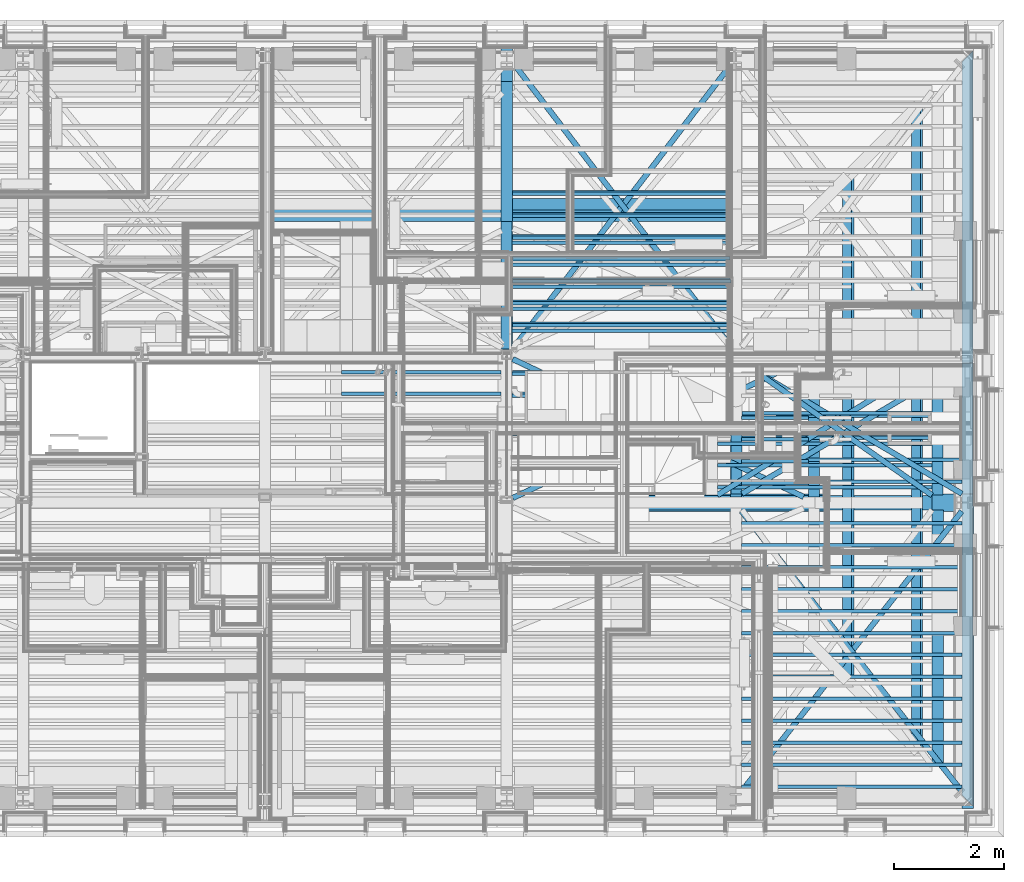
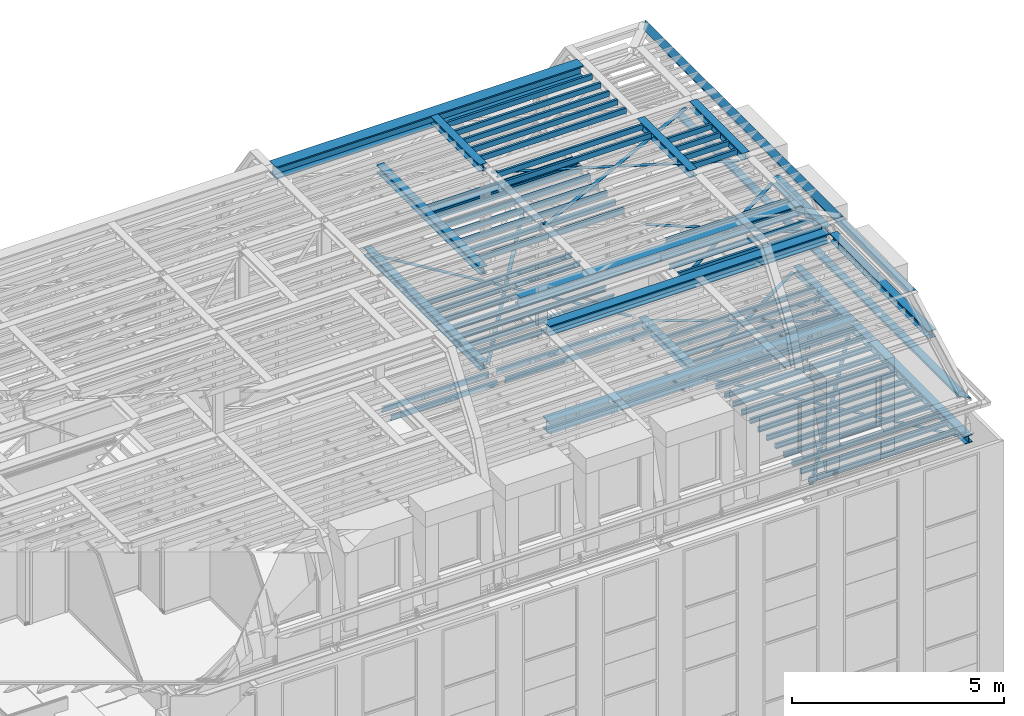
# One storey, part 10 of 183: 78 beams.
"""IFC2X3 building model written with IfcOpenShell, lengths in metres."""

from ifc_helpers import new_model, entity, si_unit, converted_unit, derived_unit, money_unit, direction, frame, frame_2d, origin_with_axes, place, context, subcontext, project, spatial, polyline, rectangle, outline, extrude, clip, halfspace, material, type_object, element, save


model = new_model("IFC2X3")

# Units and contexts
model_context = context("Model", 3, precision=1e-05, world=origin_with_axes(), true_north=direction((0.0, 1.0)))
body_context = subcontext(model_context, "Body", "Model", "MODEL_VIEW", scale=1.0)
ifc_project = project(units=[si_unit("LENGTHUNIT", "METRE"), si_unit("AREAUNIT", "SQUARE_METRE"), si_unit("VOLUMEUNIT", "CUBIC_METRE"), si_unit("ABSORBEDDOSEUNIT", "GRAY"), si_unit("AMOUNTOFSUBSTANCEUNIT", "MOLE"), si_unit("DOSEEQUIVALENTUNIT", "SIEVERT"), si_unit("ELECTRICCAPACITANCEUNIT", "FARAD"), si_unit("ELECTRICCHARGEUNIT", "COULOMB"), si_unit("ELECTRICCONDUCTANCEUNIT", "SIEMENS"), si_unit("ELECTRICCURRENTUNIT", "AMPERE"), si_unit("ELECTRICRESISTANCEUNIT", "OHM"), si_unit("ELECTRICVOLTAGEUNIT", "VOLT"), si_unit("ENERGYUNIT", "JOULE"), si_unit("FORCEUNIT", "NEWTON"), si_unit("FREQUENCYUNIT", "HERTZ"), si_unit("ILLUMINANCEUNIT", "LUX"), si_unit("INDUCTANCEUNIT", "HENRY"), si_unit("LUMINOUSFLUXUNIT", "LUMEN"), si_unit("LUMINOUSINTENSITYUNIT", "CANDELA"), si_unit("MAGNETICFLUXDENSITYUNIT", "TESLA"), si_unit("MAGNETICFLUXUNIT", "WEBER"), si_unit("MASSUNIT", "GRAM"), converted_unit("PLANEANGLEUNIT", "degree", entity("IfcReal", 0.0174532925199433), si_unit("PLANEANGLEUNIT", "RADIAN"), dimensions=[0, 0, 0, 0, 0, 0, 0]), si_unit("POWERUNIT", "WATT"), si_unit("PRESSUREUNIT", "PASCAL"), si_unit("RADIOACTIVITYUNIT", "BECQUEREL"), si_unit("SOLIDANGLEUNIT", "STERADIAN"), si_unit("THERMODYNAMICTEMPERATUREUNIT", "KELVIN"), si_unit("TIMEUNIT", "SECOND"), derived_unit("ACCELERATIONUNIT", [(si_unit("LENGTHUNIT", "METRE"), 1), (si_unit("TIMEUNIT", "SECOND"), -2)]), derived_unit("ANGULARVELOCITYUNIT", [(converted_unit("PLANEANGLEUNIT", "degree", entity("IfcReal", 0.0174532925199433), si_unit("PLANEANGLEUNIT", "RADIAN"), dimensions=[0, 0, 0, 0, 0, 0, 0]), 1), (si_unit("TIMEUNIT", "SECOND"), -1)]), derived_unit("CURVATUREUNIT", [(converted_unit("PLANEANGLEUNIT", "degree", entity("IfcReal", 0.0174532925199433), si_unit("PLANEANGLEUNIT", "RADIAN"), dimensions=[0, 0, 0, 0, 0, 0, 0]), 1), (si_unit("LENGTHUNIT", "METRE"), -1)]), derived_unit("DYNAMICVISCOSITYUNIT", [(si_unit("PRESSUREUNIT", "PASCAL"), 1), (si_unit("TIMEUNIT", "SECOND"), 1)]), derived_unit("HEATFLUXDENSITYUNIT", [(si_unit("POWERUNIT", "WATT"), 1), (si_unit("LENGTHUNIT", "METRE"), -2)]), derived_unit("HEATINGVALUEUNIT", [(si_unit("ENERGYUNIT", "JOULE"), 1), (si_unit("MASSUNIT", "GRAM"), -1)]), derived_unit("INTEGERCOUNTRATEUNIT", [(si_unit("TIMEUNIT", "SECOND"), -1)]), derived_unit("IONCONCENTRATIONUNIT", [(si_unit("MASSUNIT", "GRAM"), 1), (si_unit("VOLUMEUNIT", "CUBIC_METRE"), -1)]), derived_unit("ISOTHERMALMOISTURECAPACITYUNIT", [(si_unit("VOLUMEUNIT", "CUBIC_METRE"), 1), (si_unit("MASSUNIT", "GRAM"), -1)]), derived_unit("KINEMATICVISCOSITYUNIT", [(si_unit("AREAUNIT", "SQUARE_METRE"), 1), (si_unit("TIMEUNIT", "SECOND"), -1)]), derived_unit("LINEARFORCEUNIT", [(si_unit("FORCEUNIT", "NEWTON"), 1), (si_unit("LENGTHUNIT", "METRE"), -1)]), derived_unit("LINEARMOMENTUNIT", [(si_unit("FORCEUNIT", "NEWTON"), 1), (si_unit("LENGTHUNIT", "METRE"), -1)]), derived_unit("LINEARSTIFFNESSUNIT", [(si_unit("FORCEUNIT", "NEWTON"), 1), (si_unit("LENGTHUNIT", "METRE"), -1)]), derived_unit("LINEARVELOCITYUNIT", [(si_unit("LENGTHUNIT", "METRE"), 1), (si_unit("TIMEUNIT", "SECOND"), -1)]), derived_unit("LUMINOUSINTENSITYDISTRIBUTIONUNIT", [(si_unit("LUMINOUSINTENSITYUNIT", "CANDELA"), 1), (si_unit("LUMINOUSFLUXUNIT", "LUMEN"), -1)]), derived_unit("MASSDENSITYUNIT", [(si_unit("MASSUNIT", "GRAM"), 1), (si_unit("VOLUMEUNIT", "CUBIC_METRE"), -1)]), derived_unit("MASSFLOWRATEUNIT", [(si_unit("MASSUNIT", "GRAM"), 1), (si_unit("TIMEUNIT", "SECOND"), -1)]), derived_unit("MASSPERLENGTHUNIT", [(si_unit("MASSUNIT", "GRAM"), 1), (si_unit("LENGTHUNIT", "METRE"), -1)]), derived_unit("MODULUSOFELASTICITYUNIT", [(si_unit("FORCEUNIT", "NEWTON"), 1), (si_unit("AREAUNIT", "SQUARE_METRE"), -1)]), derived_unit("MODULUSOFLINEARSUBGRADEREACTIONUNIT", [(si_unit("FORCEUNIT", "NEWTON"), 1), (si_unit("LENGTHUNIT", "METRE"), -2)]), derived_unit("MODULUSOFROTATIONALSUBGRADEREACTIONUNIT", [(si_unit("FORCEUNIT", "NEWTON"), 1), (si_unit("LENGTHUNIT", "METRE"), 1)]), derived_unit("MODULUSOFSUBGRADEREACTIONUNIT", [(si_unit("FORCEUNIT", "NEWTON"), 1), (si_unit("VOLUMEUNIT", "CUBIC_METRE"), -1)]), derived_unit("MOISTUREDIFFUSIVITYUNIT", [(si_unit("VOLUMEUNIT", "CUBIC_METRE"), 1), (si_unit("TIMEUNIT", "SECOND"), -1)]), derived_unit("MOLECULARWEIGHTUNIT", [(si_unit("MASSUNIT", "GRAM"), 1), (si_unit("AMOUNTOFSUBSTANCEUNIT", "MOLE"), -1)]), derived_unit("PLANARFORCEUNIT", [(si_unit("FORCEUNIT", "NEWTON"), 1), (si_unit("LENGTHUNIT", "METRE"), -2)]), derived_unit("ROTATIONALFREQUENCYUNIT", [(si_unit("TIMEUNIT", "SECOND"), -1)]), derived_unit("ROTATIONALMASSUNIT", [(si_unit("MASSUNIT", "GRAM"), 1), (si_unit("LENGTHUNIT", "METRE"), 2)]), derived_unit("ROTATIONALSTIFFNESSUNIT", [(si_unit("FORCEUNIT", "NEWTON"), 1), (si_unit("LENGTHUNIT", "METRE"), 1), (converted_unit("PLANEANGLEUNIT", "degree", entity("IfcReal", 0.0174532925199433), si_unit("PLANEANGLEUNIT", "RADIAN"), dimensions=[0, 0, 0, 0, 0, 0, 0]), -1)]), derived_unit("SECTIONAREAINTEGRALUNIT", [(si_unit("LENGTHUNIT", "METRE"), 5)]), derived_unit("SECTIONMODULUSUNIT", [(si_unit("LENGTHUNIT", "METRE"), 3)]), derived_unit("SHEARMODULUSUNIT", [(si_unit("FORCEUNIT", "NEWTON"), 1), (si_unit("AREAUNIT", "SQUARE_METRE"), -1)]), derived_unit("SOUNDPOWERUNIT", [(si_unit("ENERGYUNIT", "JOULE"), 1), (si_unit("TIMEUNIT", "SECOND"), -1)]), derived_unit("SPECIFICHEATCAPACITYUNIT", [(si_unit("FORCEUNIT", "NEWTON"), 1), (si_unit("MASSUNIT", "GRAM"), -1), (si_unit("THERMODYNAMICTEMPERATUREUNIT", "KELVIN"), -1)]), derived_unit("TEMPERATUREGRADIENTUNIT", [(si_unit("THERMODYNAMICTEMPERATUREUNIT", "KELVIN"), 1), (si_unit("LENGTHUNIT", "METRE"), -1)]), derived_unit("THERMALADMITTANCEUNIT", [(si_unit("POWERUNIT", "WATT"), 1), (si_unit("AREAUNIT", "SQUARE_METRE"), -1), (si_unit("THERMODYNAMICTEMPERATUREUNIT", "KELVIN"), -1)]), derived_unit("THERMALCONDUCTANCEUNIT", [(si_unit("POWERUNIT", "WATT"), 1), (si_unit("LENGTHUNIT", "METRE"), -1), (si_unit("THERMODYNAMICTEMPERATUREUNIT", "KELVIN"), -1)]), derived_unit("THERMALEXPANSIONCOEFFICIENTUNIT", [(si_unit("THERMODYNAMICTEMPERATUREUNIT", "KELVIN"), -1)]), derived_unit("THERMALRESISTANCEUNIT", [(si_unit("AREAUNIT", "SQUARE_METRE"), 1), (si_unit("POWERUNIT", "WATT"), -1)]), derived_unit("THERMALTRANSMITTANCEUNIT", [(si_unit("POWERUNIT", "WATT"), 1), (si_unit("AREAUNIT", "SQUARE_METRE"), -1), (si_unit("THERMODYNAMICTEMPERATUREUNIT", "KELVIN"), -1)]), derived_unit("TORQUEUNIT", [(si_unit("FORCEUNIT", "NEWTON"), 1), (si_unit("LENGTHUNIT", "METRE"), 1)]), derived_unit("VAPORPERMEABILITYUNIT", [(si_unit("MASSUNIT", "GRAM"), 1), (si_unit("TIMEUNIT", "SECOND"), -1)]), derived_unit("VOLUMETRICFLOWRATEUNIT", [(si_unit("VOLUMEUNIT", "CUBIC_METRE"), 1), (si_unit("TIMEUNIT", "SECOND"), -1)]), derived_unit("WARPINGCONSTANTUNIT", [(si_unit("LENGTHUNIT", "METRE"), 6)]), derived_unit("WARPINGMOMENTUNIT", [(si_unit("FORCEUNIT", "NEWTON"), 1), (si_unit("LENGTHUNIT", "METRE"), 2)]), money_unit("GBP")], contexts=[model_context])

# Site, building, storey
site_placement = place(None, origin_with_axes())
site = spatial("IfcSite", under=ifc_project, at=site_placement, Name="Site", CompositionType="ELEMENT")
building_placement = place(site_placement, origin_with_axes())
building = spatial("IfcBuilding", under=site, at=building_placement, Name="Building01", CompositionType="ELEMENT")
storey_placement = place(building_placement, frame((0.0, 0.0, 5.15), z_axis=(0.0, 0.0, 1.0), x_axis=(1.0, 0.0, 0.0)))
storey = spatial("IfcBuildingStorey", under=building, at=storey_placement, Name="1F", CompositionType="ELEMENT", Elevation=5.15)

# Beams
ifc_material = material(Name="A_BSUK_Beams_Steel")
beam_type_1 = type_object("IfcBeamType", Name="A-Beams-Steel", PredefinedType="BEAM")
beam_1_placement = place(storey_placement, frame((18.01, 5.9408, 9.3775), z_axis=(1.0, 0.0, 0.0), x_axis=(0.0, 1.0, 0.0)))
element("IfcBeam", 1, at=beam_1_placement, inside=storey, type_object=beam_type_1, material=ifc_material, Name="4F", ObjectType="A-Beams-Steel", context=body_context, shape_type="SweptSolid", body=[
    extrude(outline(polyline([(0.3184, 0.0), (0.3184, 0.0377), (0.1707, 0.0377), (0.1707, 0.3148), (0.3184, 0.3148), (0.3184, 0.3525), (0.0, 0.3525), (0.0, 0.3148), (0.1477, 0.3148), (0.1477, 0.0377), (0.0, 0.0377), (0.0, 0.0), (0.3184, 0.0)])), origin_with_axes(), (0.0, 0.0, 1.0), 8.41),
])
beam_2_placement = place(storey_placement, frame((17.80545, 14.38, 9.5078), z_axis=(0.0, -1.0, 0.0), x_axis=(1.0, 0.0, 0.0)))
element("IfcBeam", 2, at=beam_2_placement, inside=storey, type_object=beam_type_1, material=ifc_material, Name="4F", ObjectType="A-Beams-Steel", context=body_context, shape_type="SweptSolid", body=[
    extrude(outline(polyline([(0.2091, 0.0), (0.2091, 0.0205), (0.1109, 0.0205), (0.1109, 0.2017), (0.2091, 0.2017), (0.2091, 0.2222), (0.0, 0.2222), (0.0, 0.2017), (0.0982, 0.2017), (0.0982, 0.0205), (0.0, 0.0205), (0.0, 0.0), (0.2091, 0.0)])), origin_with_axes(), (0.0, 0.0, 1.0), 5.505),
])
beam_3_placement = place(storey_placement, frame((26.2109, 5.9408, 9.5078), z_axis=(0.0, -1.0, 0.0), x_axis=(1.0, 0.0, 0.0)))
element("IfcBeam", 3, at=beam_3_placement, inside=storey, type_object=beam_type_1, material=ifc_material, Name="4F", ObjectType="A-Beams-Steel", context=body_context, shape_type="SweptSolid", body=[
    extrude(outline(polyline([(0.2091, 0.0), (0.2091, 0.0205), (0.1109, 0.0205), (0.1109, 0.2017), (0.2091, 0.2017), (0.2091, 0.2222), (0.0, 0.2222), (0.0, 0.2017), (0.0982, 0.2017), (0.0982, 0.0205), (0.0, 0.0205), (0.0, 0.0), (0.2091, 0.0)])), origin_with_axes(), (0.0, 0.0, 1.0), 5.4208),
])
for number, where, z_axis, x_axis, name in (
    (4, (21.9982, 8.6408, 9.5268), (0.0, -1.0, 0.0), (1.0, 0.0, 0.0), "4F"),
    (5, (26.21365, 8.6408, 9.5268), (0.0, -1.0, 0.0), (1.0, 0.0, 0.0), "4F"),
):
    element("IfcBeam", number, at=place(storey_placement, frame(where, z_axis=z_axis, x_axis=x_axis)), inside=storey, type_object=beam_type_1, material=ifc_material, Name=name, ObjectType="A-Beams-Steel", context=body_context, shape_type="SweptSolid", body=[
        extrude(outline(polyline([(0.2036, 0.0), (0.2036, 0.011), (0.1054, 0.011), (0.1054, 0.1922), (0.2036, 0.1922), (0.2036, 0.2032), (0.0, 0.2032), (0.0, 0.1922), (0.0982, 0.1922), (0.0982, 0.011), (0.0, 0.011), (0.0, 0.0), (0.2036, 0.0)])), origin_with_axes(), (0.0, 0.0, 1.0), 2.3816),
    ])
beam_4_placement = place(storey_placement, frame((17.8068, 13.780445, 12.2642), z_axis=(0.0, -1.0, 0.0), x_axis=(1.0, 0.0, 0.0)))
element("IfcBeam", 6, at=beam_4_placement, inside=storey, type_object=beam_type_1, material=ifc_material, Name="5F", ObjectType="A-Beams-Steel", context=body_context, shape_type="SweptSolid", body=[
    extrude(outline(polyline([(0.2064, 0.0), (0.2064, 0.0173), (0.1082, 0.0173), (0.1082, 0.1985), (0.2064, 0.1985), (0.2064, 0.2158), (0.0, 0.2158), (0.0, 0.1985), (0.0982, 0.1985), (0.0982, 0.0173), (0.0, 0.0173), (0.0, 0.0), (0.2064, 0.0)])), origin_with_axes(), (0.0, 0.0, 1.0), 4.905445),
])
beam_5_placement = place(storey_placement, frame((25.6668, 5.967373, 12.2642), z_axis=(0.0, -1.0, 0.0), x_axis=(1.0, 0.0, 0.0)))
element("IfcBeam", 7, at=beam_5_placement, inside=storey, type_object=beam_type_1, material=ifc_material, Name="5F", ObjectType="A-Beams-Steel", context=body_context, shape_type="SweptSolid", body=[
    extrude(outline(polyline([(0.2064, 0.0), (0.2064, 0.0173), (0.1082, 0.0173), (0.1082, 0.1985), (0.2064, 0.1985), (0.2064, 0.2158), (0.0, 0.2158), (0.0, 0.1985), (0.0982, 0.1985), (0.0982, 0.0173), (0.0, 0.0173), (0.0, 0.0), (0.2064, 0.0)])), origin_with_axes(), (0.0, 0.0, 1.0), 4.665573),
])
beam_6_placement = place(storey_placement, frame((25.668093, 8.667427, 12.2768), z_axis=(0.0, -1.0, 0.0), x_axis=(1.0, 0.0, 0.0)))
element("IfcBeam", 8, at=beam_6_placement, inside=storey, type_object=beam_type_1, material=ifc_material, Name="5F", ObjectType="A-Beams-Steel", context=body_context, shape_type="SweptSolid", body=[
    extrude(outline(polyline([(0.2036, 0.0), (0.2036, 0.011), (0.1054, 0.011), (0.1054, 0.1922), (0.2036, 0.1922), (0.2036, 0.2032), (0.0, 0.2032), (0.0, 0.1922), (0.0982, 0.1922), (0.0982, 0.011), (0.0, 0.011), (0.0, 0.0), (0.2036, 0.0)])), origin_with_axes(), (0.0, 0.0, 1.0), 2.434484),
])
beam_7_placement = place(storey_placement, frame((18.0132, 11.4382, 12.2768), z_axis=(1.0, 0.0, 0.0), x_axis=(0.0, 1.0, 0.0)))
element("IfcBeam", 9, at=beam_7_placement, inside=storey, type_object=beam_type_1, material=ifc_material, Name="5F", ObjectType="A-Beams-Steel", context=body_context, shape_type="SweptSolid", body=[
    extrude(outline(polyline([(0.2036, 0.0), (0.2036, 0.011), (0.1054, 0.011), (0.1054, 0.1922), (0.2036, 0.1922), (0.2036, 0.2032), (0.0, 0.2032), (0.0, 0.1922), (0.0982, 0.1922), (0.0982, 0.011), (0.0, 0.011), (0.0, 0.0), (0.2036, 0.0)])), origin_with_axes(), (0.0, 0.0, 1.0), 3.9836),
])
beam_8_placement = place(storey_placement, frame((18.01, 5.967427, 12.1909), z_axis=(1.0, 0.0, 0.0), x_axis=(0.0, 1.0, 0.0)))
element("IfcBeam", 10, at=beam_8_placement, inside=storey, type_object=beam_type_1, material=ifc_material, Name="5F", ObjectType="A-Beams-Steel", context=body_context, shape_type="SweptSolid", body=[
    extrude(outline(polyline([(0.2652, 0.0), (0.2652, 0.0317), (0.1422, 0.0317), (0.1422, 0.2574), (0.2652, 0.2574), (0.2652, 0.2891), (0.0, 0.2891), (0.0, 0.2574), (0.123, 0.2574), (0.123, 0.0317), (0.0, 0.0317), (0.0, 0.0), (0.2652, 0.0)])), origin_with_axes(), (0.0, 0.0, 1.0), 7.6568),
])
beam_9_placement = place(storey_placement, frame((18.0118, 7.3174, 12.1909), z_axis=(1.0, 0.0, 0.0), x_axis=(0.0, 1.0, 0.0)))
element("IfcBeam", 11, at=beam_9_placement, inside=storey, type_object=beam_type_1, material=ifc_material, Name="5F", ObjectType="A-Beams-Steel", context=body_context, shape_type="SweptSolid", body=[
    extrude(outline(polyline([(0.2652, 0.0), (0.2652, 0.0317), (0.1422, 0.0317), (0.1422, 0.2574), (0.2652, 0.2574), (0.2652, 0.2891), (0.0, 0.2891), (0.0, 0.2574), (0.123, 0.2574), (0.123, 0.0317), (0.0, 0.0317), (0.0, 0.0), (0.2652, 0.0)])), origin_with_axes(), (0.0, 0.0, 1.0), 7.643593),
])
beam_10_placement = place(storey_placement, frame((17.8082, 11.2208, 15.2268), z_axis=(0.0, -1.0, 0.0), x_axis=(1.0, 0.0, 0.0)))
element("IfcBeam", 12, at=beam_10_placement, inside=storey, type_object=beam_type_1, material=ifc_material, Name="RP", ObjectType="A-Beams-Steel", context=body_context, shape_type="SweptSolid", body=[
    extrude(outline(polyline([(0.2036, 0.0), (0.2036, 0.011), (0.1054, 0.011), (0.1054, 0.1922), (0.2036, 0.1922), (0.2036, 0.2032), (0.0, 0.2032), (0.0, 0.1922), (0.0982, 0.1922), (0.0982, 0.011), (0.0, 0.011), (0.0, 0.0), (0.2036, 0.0)])), origin_with_axes(), (0.0, 0.0, 1.0), 2.3176),
])
for number, where, z_axis, x_axis, name in (
    (13, (21.988166, 8.6968, 15.2268), (0.0, -1.0, 0.0), (1.0, 0.0, 0.0), "RP"),
    (14, (23.415402, 8.6968, 15.2268), (0.0, -1.0, 0.0), (1.0, 0.0, 0.0), "RP"),
):
    element("IfcBeam", number, at=place(storey_placement, frame(where, z_axis=z_axis, x_axis=x_axis)), inside=storey, type_object=beam_type_1, material=ifc_material, Name=name, ObjectType="A-Beams-Steel", context=body_context, shape_type="SweptSolid", body=[
        extrude(outline(polyline([(0.2036, 0.0), (0.2036, 0.011), (0.1054, 0.011), (0.1054, 0.1922), (0.2036, 0.1922), (0.2036, 0.2032), (0.0, 0.2032), (0.0, 0.1922), (0.0982, 0.1922), (0.0982, 0.011), (0.0, 0.011), (0.0, 0.0), (0.2036, 0.0)])), origin_with_axes(), (0.0, 0.0, 1.0), 2.4936),
    ])
beam_11_placement = place(storey_placement, frame((13.6018, 11.2208, 15.0775), z_axis=(1.0, 0.0, 0.0), x_axis=(0.0, 1.0, 0.0)))
element("IfcBeam", 15, at=beam_11_placement, inside=storey, type_object=beam_type_1, material=ifc_material, Name="RP", ObjectType="A-Beams-Steel", context=body_context, shape_type="SweptSolid", body=[
    extrude(outline(polyline([(0.3184, 0.0), (0.3184, 0.0377), (0.1707, 0.0377), (0.1707, 0.3148), (0.3184, 0.3148), (0.3184, 0.3525), (0.0, 0.3525), (0.0, 0.3148), (0.1477, 0.3148), (0.1477, 0.0377), (0.0, 0.0377), (0.0, 0.0), (0.3184, 0.0)])), origin_with_axes(), (0.0, 0.0, 1.0), 8.386366),
])
for number, where, z_axis, x_axis, name in (
    (16, (18.006352, 14.06251, 9.568), (0.60877765, -0.79334089, 0.0), (0.79334089, 0.60877765, 0.0), "4F"),
    (17, (21.945783, 14.099239, 9.558), (-0.60877765, -0.79334089, 0.0), (0.79334089, -0.60877765, 0.0), "4F"),
):
    element("IfcBeam", number, at=place(storey_placement, frame(where, z_axis=z_axis, x_axis=x_axis)), inside=storey, type_object=beam_type_1, material=ifc_material, Name=name, ObjectType="A-Beams-Steel", context=body_context, shape_type="SweptSolid", body=[
        extrude(rectangle(XDim=0.01, YDim=0.1, at=frame_2d((0.05, 0.005), x_axis=(0.0, 1.0))), origin_with_axes(), (0.0, 0.0, 1.0), 6.47105),
    ])
for number, where, z_axis, x_axis, name in (
    (18, (22.176277, 8.597805, 9.568), (0.85989576, -0.51046967, 0.0), (0.51046967, 0.85989576, 0.0), "4F"),
    (19, (26.188127, 8.683795, 9.558), (-0.85989576, -0.51046967, 0.0), (0.51046967, -0.85989576, 0.0), "4F"),
):
    element("IfcBeam", number, at=place(storey_placement, frame(where, z_axis=z_axis, x_axis=x_axis)), inside=storey, type_object=beam_type_1, material=ifc_material, Name=name, ObjectType="A-Beams-Steel", context=body_context, shape_type="SweptSolid", body=[
        extrude(rectangle(XDim=0.01, YDim=0.1, at=frame_2d((0.05, 0.005), x_axis=(0.0, 1.0))), origin_with_axes(), (0.0, 0.0, 1.0), 4.665507),
    ])
for number, where, z_axis, x_axis, name in (
    (20, (22.15524, 5.909901, 9.568), (0.61797987, -0.78619392, 0.0), (0.78619392, 0.61797987, 0.0), "4F"),
    (21, (26.17159, 5.971699, 9.558), (-0.61797987, -0.78619392, 0.0), (0.78619392, -0.61797987, 0.0), "4F"),
):
    element("IfcBeam", number, at=place(storey_placement, frame(where, z_axis=z_axis, x_axis=x_axis)), inside=storey, type_object=beam_type_1, material=ifc_material, Name=name, ObjectType="A-Beams-Steel", context=body_context, shape_type="SweptSolid", body=[
        extrude(rectangle(XDim=0.01, YDim=0.1, at=frame_2d((0.05, 0.005), x_axis=(0.0, 1.0))), origin_with_axes(), (0.0, 0.0, 1.0), 6.49916),
    ])
beam_12_placement = place(storey_placement, frame((25.640397, 8.709887, 12.308), z_axis=(-0.84920412, -0.52806474, 0.0), x_axis=(0.52806474, -0.84920412, 0.0)))
element("IfcBeam", 22, at=beam_12_placement, inside=storey, type_object=beam_type_1, material=ifc_material, Name="5F", ObjectType="A-Beams-Steel", context=body_context, shape_type="SweptSolid", body=[
    extrude(rectangle(XDim=0.01, YDim=0.1, at=frame_2d((0.05, 0.005), x_axis=(0.0, 1.0))), origin_with_axes(), (0.0, 0.0, 1.0), 4.610199),
])
beam_13_placement = place(storey_placement, frame((22.173053, 8.626517, 12.318), z_axis=(0.81819889, -0.57493527, 0.0), x_axis=(0.57493527, 0.81819889, 0.0)))
element("IfcBeam", 23, at=beam_13_placement, inside=storey, type_object=beam_type_1, material=ifc_material, Name="5F", ObjectType="A-Beams-Steel", context=body_context, shape_type="SweptSolid", body=[
    extrude(rectangle(XDim=0.01, YDim=0.1, at=frame_2d((0.05, 0.005), x_axis=(0.0, 1.0))), origin_with_axes(), (0.0, 0.0, 1.0), 4.234912),
])
beam_14_placement = place(storey_placement, frame((18.04239, 6.137266, 15.268), z_axis=(0.90362392, 0.42832676, 0.0), x_axis=(-0.42832676, 0.90362392, 0.0)))
element("IfcBeam", 24, at=beam_14_placement, inside=storey, type_object=beam_type_1, material=ifc_material, Name="RP", ObjectType="A-Beams-Steel", context=body_context, shape_type="SweptSolid", body=[
    extrude(rectangle(XDim=0.01, YDim=0.1, at=frame_2d((0.05, 0.005), x_axis=(0.0, 1.0))), origin_with_axes(), (0.0, 0.0, 1.0), 5.870173),
])
beam_15_placement = place(storey_placement, frame((17.999558, 8.67096, 15.258), z_axis=(0.90371693, -0.42813048, 0.0), x_axis=(0.42813048, 0.90371693, 0.0)))
element("IfcBeam", 25, at=beam_15_placement, inside=storey, type_object=beam_type_1, material=ifc_material, Name="RP", ObjectType="A-Beams-Steel", context=body_context, shape_type="SweptSolid", body=[
    extrude(rectangle(XDim=0.01, YDim=0.1, at=frame_2d((0.05, 0.005), x_axis=(0.0, 1.0))), origin_with_axes(), (0.0, 0.0, 1.0), 5.869578),
])
beam_16_placement = place(storey_placement, frame((25.290673, 13.422626, 13.514975), z_axis=(0.0, -1.0, 0.0), x_axis=(0.57351196, 0.0, -0.81919719)))
element("IfcBeam", 26, at=beam_16_placement, inside=storey, type_object=beam_type_1, material=ifc_material, Name="5F", ObjectType="A-Beams-Steel", context=body_context, shape_type="Clipping", body=[
    clip(clip(extrude(outline(polyline([(0.075, 0.0), (0.075, 0.012), (0.006, 0.012), (0.006, 0.188), (0.075, 0.188), (0.075, 0.2), (0.0, 0.2), (0.0, 0.0), (0.075, 0.0)])), origin_with_axes(), (0.0, 0.0, 1.0), 11.945253), halfspace(frame((-3.366056, -4.808032, 5.8692), z_axis=(0.4055342, 0.57925988, -0.70710678), x_axis=(-0.86746356, 0.0, -0.49750073)), True)), halfspace(frame((0.059316, 0.084727, 0.103426), z_axis=(0.4055342, 0.57925988, 0.70710678), x_axis=(0.86746356, 0.0, -0.49750073)), True)),
])
beam_17_placement = place(storey_placement, frame((24.034766, 12.166718, 15.308898), z_axis=(0.0, -1.0, 0.0), x_axis=(0.57351196, 0.0, -0.81919719)))
element("IfcBeam", 27, at=beam_17_placement, inside=storey, type_object=beam_type_1, material=ifc_material, Name="RP", ObjectType="A-Beams-Steel", context=body_context, shape_type="Clipping", body=[
    clip(clip(extrude(outline(polyline([(0.075, 0.0), (0.075, 0.012), (0.006, 0.012), (0.006, 0.188), (0.075, 0.188), (0.075, 0.2), (0.0, 0.2), (0.0, 0.0), (0.075, 0.0)])), origin_with_axes(), (0.0, 0.0, 1.0), 9.433437), halfspace(frame((0.059316, 0.084727, 0.103426), z_axis=(0.4055342, 0.57925988, 0.70710678), x_axis=(0.86746356, 0.0, -0.49750073)), True)), halfspace(frame((-2.645778, -3.779196, 4.613292), z_axis=(0.4055342, 0.57925988, -0.70710678), x_axis=(-0.86746356, 0.0, -0.49750073)), True)),
])
beam_18_placement = place(storey_placement, frame((26.2136, 14.3387, 10.748931), z_axis=(0.0, -1.0, 0.0), x_axis=(0.0, 0.0, -1.0)))
element("IfcBeam", 28, at=beam_18_placement, inside=storey, type_object=beam_type_1, material=ifc_material, Name="4F", ObjectType="A-Beams-Steel", context=body_context, shape_type="Clipping", body=[
    clip(clip(extrude(outline(polyline([(0.075, 0.0), (0.075, 0.012), (0.006, 0.012), (0.006, 0.188), (0.075, 0.188), (0.075, 0.2), (0.0, 0.2), (0.0, 0.0), (0.075, 0.0)])), origin_with_axes(), (0.0, 0.0, 1.0), 13.7774), halfspace(frame((0.0, -6.7887, 6.7887), z_axis=(0.0, 0.70710678, -0.70710678), x_axis=(-1.0, 0.0, 0.0)), True)), halfspace(frame((0.0, 0.1, 0.1), z_axis=(0.0, 0.70710678, 0.70710678), x_axis=(-1.0, 0.0, 0.0)), True)),
])
beam_type_2 = type_object("IfcBeamType", Name="SHE_A-Beams-Steel-Purlin_150m15", PredefinedType="BEAM")
for number, where, z_axis, x_axis, name in (
    (29, (21.98545, 9.3912, 9.578), (-1.0, 0.0, 0.0), (0.0, -1.0, 0.0), "4F"),
    (30, (21.98545, 9.7912, 9.578), (-1.0, 0.0, 0.0), (0.0, -1.0, 0.0), "4F"),
    (31, (21.98545, 10.1912, 9.578), (-1.0, 0.0, 0.0), (0.0, -1.0, 0.0), "4F"),
    (32, (21.98545, 10.5912, 9.578), (-1.0, 0.0, 0.0), (0.0, -1.0, 0.0), "4F"),
    (33, (21.98545, 10.9912, 9.578), (-1.0, 0.0, 0.0), (0.0, -1.0, 0.0), "4F"),
    (34, (21.98545, 11.3912, 9.578), (-1.0, 0.0, 0.0), (0.0, -1.0, 0.0), "4F"),
    (35, (21.98545, 11.7912, 9.578), (-1.0, 0.0, 0.0), (0.0, -1.0, 0.0), "4F"),
):
    element("IfcBeam", number, at=place(storey_placement, frame(where, z_axis=z_axis, x_axis=x_axis)), inside=storey, type_object=beam_type_2, material=ifc_material, Name=name, ObjectType="SHE_A-Beams-Steel-Purlin_150m15", context=body_context, shape_type="SweptSolid", body=[
        extrude(outline(polyline([(0.064, 0.0), (0.064, 0.0155), (0.0625, 0.0155), (0.0625, 0.0015), (0.0015, 0.0015), (0.0015, 0.1505), (0.0625, 0.1505), (0.0625, 0.1365), (0.064, 0.1365), (0.064, 0.152), (0.0, 0.152), (0.0, 0.0), (0.064, 0.0)])), origin_with_axes(), (0.0, 0.0, 1.0), 3.9709),
    ])
for number, where, z_axis, x_axis, name in (
    (36, (26.2109, 0.952, 9.578), (-1.0, 0.0, 0.0), (0.0, -1.0, 0.0), "4F"),
    (37, (26.2109, 1.352, 9.578), (-1.0, 0.0, 0.0), (0.0, -1.0, 0.0), "4F"),
    (38, (26.2109, 1.752, 9.578), (-1.0, 0.0, 0.0), (0.0, -1.0, 0.0), "4F"),
    (39, (26.2109, 2.152, 9.578), (-1.0, 0.0, 0.0), (0.0, -1.0, 0.0), "4F"),
    (40, (26.2109, 2.552, 9.578), (-1.0, 0.0, 0.0), (0.0, -1.0, 0.0), "4F"),
    (41, (26.2109, 2.952, 9.578), (-1.0, 0.0, 0.0), (0.0, -1.0, 0.0), "4F"),
    (42, (26.2109, 3.352, 9.578), (-1.0, 0.0, 0.0), (0.0, -1.0, 0.0), "4F"),
    (43, (26.2109, 3.752, 9.578), (-1.0, 0.0, 0.0), (0.0, -1.0, 0.0), "4F"),
    (44, (26.2109, 4.152, 9.578), (-1.0, 0.0, 0.0), (0.0, -1.0, 0.0), "4F"),
    (45, (26.2109, 4.552, 9.578), (-1.0, 0.0, 0.0), (0.0, -1.0, 0.0), "4F"),
    (46, (26.2109, 4.952, 9.578), (-1.0, 0.0, 0.0), (0.0, -1.0, 0.0), "4F"),
    (47, (26.2109, 5.352, 9.578), (-1.0, 0.0, 0.0), (0.0, -1.0, 0.0), "4F"),
    (48, (26.2109, 5.752, 9.578), (-1.0, 0.0, 0.0), (0.0, -1.0, 0.0), "4F"),
):
    element("IfcBeam", number, at=place(storey_placement, frame(where, z_axis=z_axis, x_axis=x_axis)), inside=storey, type_object=beam_type_2, material=ifc_material, Name=name, ObjectType="SHE_A-Beams-Steel-Purlin_150m15", context=body_context, shape_type="SweptSolid", body=[
        extrude(outline(polyline([(0.064, 0.0), (0.064, 0.0155), (0.0625, 0.0155), (0.0625, 0.0015), (0.0015, 0.0015), (0.0015, 0.1505), (0.0625, 0.1505), (0.0625, 0.1365), (0.064, 0.1365), (0.064, 0.152), (0.0, 0.152), (0.0, 0.0), (0.064, 0.0)])), origin_with_axes(), (0.0, 0.0, 1.0), 4.01635),
    ])
for number, where, z_axis, x_axis, name in (
    (49, (22.191766, 6.418, 15.278), (1.0, 0.0, 0.0), (0.0, 1.0, 0.0), "RP"),
    (50, (22.191766, 6.818, 15.278), (1.0, 0.0, 0.0), (0.0, 1.0, 0.0), "RP"),
    (51, (22.191766, 7.218, 15.278), (1.0, 0.0, 0.0), (0.0, 1.0, 0.0), "RP"),
    (52, (22.191766, 7.618, 15.278), (1.0, 0.0, 0.0), (0.0, 1.0, 0.0), "RP"),
):
    element("IfcBeam", number, at=place(storey_placement, frame(where, z_axis=z_axis, x_axis=x_axis)), inside=storey, type_object=beam_type_2, material=ifc_material, Name=name, ObjectType="SHE_A-Beams-Steel-Purlin_150m15", context=body_context, shape_type="SweptSolid", body=[
        extrude(outline(polyline([(0.064, 0.0), (0.064, 0.0155), (0.0625, 0.0155), (0.0625, 0.0015), (0.0015, 0.0015), (0.0015, 0.1505), (0.0625, 0.1505), (0.0625, 0.1365), (0.064, 0.1365), (0.064, 0.152), (0.0, 0.152), (0.0, 0.0), (0.064, 0.0)])), origin_with_axes(), (0.0, 0.0, 1.0), 1.223636),
    ])
for number, where, z_axis, x_axis, name in (
    (53, (18.01455, 8.048, 9.578), (1.0, 0.0, 0.0), (0.0, 1.0, 0.0), "4F"),
    (54, (18.01455, 8.448, 9.578), (1.0, 0.0, 0.0), (0.0, 1.0, 0.0), "4F"),
):
    element("IfcBeam", number, at=place(storey_placement, frame(where, z_axis=z_axis, x_axis=x_axis)), inside=storey, type_object=beam_type_2, material=ifc_material, Name=name, ObjectType="SHE_A-Beams-Steel-Purlin_150m15", context=body_context, shape_type="SweptSolid", body=[
        extrude(outline(polyline([(0.064, 0.0), (0.064, 0.0155), (0.0625, 0.0155), (0.0625, 0.0015), (0.0015, 0.0015), (0.0015, 0.1505), (0.0625, 0.1505), (0.0625, 0.1365), (0.064, 0.1365), (0.064, 0.152), (0.0, 0.152), (0.0, 0.0), (0.064, 0.0)])), origin_with_axes(), (0.0, 0.0, 1.0), 3.98365),
    ])
for number, where, z_axis, x_axis, name in (
    (55, (26.21365, 6.512, 9.578), (-1.0, 0.0, 0.0), (0.0, -1.0, 0.0), "4F"),
    (56, (26.21365, 6.912, 9.578), (-1.0, 0.0, 0.0), (0.0, -1.0, 0.0), "4F"),
    (57, (26.21365, 7.312, 9.578), (-1.0, 0.0, 0.0), (0.0, -1.0, 0.0), "4F"),
    (58, (26.21365, 7.712, 9.578), (-1.0, 0.0, 0.0), (0.0, -1.0, 0.0), "4F"),
):
    element("IfcBeam", number, at=place(storey_placement, frame(where, z_axis=z_axis, x_axis=x_axis)), inside=storey, type_object=beam_type_2, material=ifc_material, Name=name, ObjectType="SHE_A-Beams-Steel-Purlin_150m15", context=body_context, shape_type="SweptSolid", body=[
        extrude(outline(polyline([(0.064, 0.0), (0.064, 0.0155), (0.0625, 0.0155), (0.0625, 0.0015), (0.0015, 0.0015), (0.0015, 0.1505), (0.0625, 0.1505), (0.0625, 0.1365), (0.064, 0.1365), (0.064, 0.152), (0.0, 0.152), (0.0, 0.0), (0.064, 0.0)])), origin_with_axes(), (0.0, 0.0, 1.0), 4.01185),
    ])
for number, where, z_axis, x_axis, name in (
    (59, (18.0146, 11.700627, 12.328), (1.0, 0.0, 0.0), (0.0, 1.0, 0.0), "5F"),
    (60, (18.0146, 11.300627, 12.328), (1.0, 0.0, 0.0), (0.0, 1.0, 0.0), "5F"),
    (61, (18.0146, 10.900627, 12.328), (1.0, 0.0, 0.0), (0.0, 1.0, 0.0), "5F"),
    (62, (18.0146, 10.500627, 12.328), (1.0, 0.0, 0.0), (0.0, 1.0, 0.0), "5F"),
    (63, (18.0146, 10.100627, 12.328), (1.0, 0.0, 0.0), (0.0, 1.0, 0.0), "5F"),
    (64, (18.0146, 9.700627, 12.328), (1.0, 0.0, 0.0), (0.0, 1.0, 0.0), "5F"),
    (65, (18.0146, 9.300627, 12.328), (1.0, 0.0, 0.0), (0.0, 1.0, 0.0), "5F"),
):
    element("IfcBeam", number, at=place(storey_placement, frame(where, z_axis=z_axis, x_axis=x_axis)), inside=storey, type_object=beam_type_2, material=ifc_material, Name=name, ObjectType="SHE_A-Beams-Steel-Purlin_150m15", context=body_context, shape_type="SweptSolid", body=[
        extrude(outline(polyline([(0.064, 0.0), (0.064, 0.0155), (0.0625, 0.0155), (0.0625, 0.0015), (0.0015, 0.0015), (0.0015, 0.1505), (0.0625, 0.1505), (0.0625, 0.1365), (0.064, 0.1365), (0.064, 0.152), (0.0, 0.152), (0.0, 0.0), (0.064, 0.0)])), origin_with_axes(), (0.0, 0.0, 1.0), 3.9822),
    ])
beam_19_placement = place(storey_placement, frame((22.2018, 7.700627, 12.328), z_axis=(1.0, 0.0, 0.0), x_axis=(0.0, 1.0, 0.0)))
element("IfcBeam", 66, at=beam_19_placement, inside=storey, type_object=beam_type_2, material=ifc_material, Name="5F", ObjectType="SHE_A-Beams-Steel-Purlin_150m15", context=body_context, shape_type="SweptSolid", body=[
    extrude(outline(polyline([(0.064, 0.0), (0.064, 0.0155), (0.0625, 0.0155), (0.0625, 0.0015), (0.0015, 0.0015), (0.0015, 0.1505), (0.0625, 0.1505), (0.0625, 0.1365), (0.064, 0.1365), (0.064, 0.152), (0.0, 0.152), (0.0, 0.0), (0.064, 0.0)])), origin_with_axes(), (0.0, 0.0, 1.0), 3.465),
])
for number, where, z_axis, x_axis, name in (
    (67, (21.7518, 7.1434, 12.328), (1.0, 0.0, 0.0), (0.0, 1.0, 0.0), "5F"),
    (68, (21.7518, 6.7434, 12.328), (1.0, 0.0, 0.0), (0.0, 1.0, 0.0), "5F"),
    (69, (21.7518, 6.3434, 12.328), (1.0, 0.0, 0.0), (0.0, 1.0, 0.0), "5F"),
):
    element("IfcBeam", number, at=place(storey_placement, frame(where, z_axis=z_axis, x_axis=x_axis)), inside=storey, type_object=beam_type_2, material=ifc_material, Name=name, ObjectType="SHE_A-Beams-Steel-Purlin_150m15", context=body_context, shape_type="SweptSolid", body=[
        extrude(outline(polyline([(0.064, 0.0), (0.064, 0.0155), (0.0625, 0.0155), (0.0625, 0.0015), (0.0015, 0.0015), (0.0015, 0.1505), (0.0625, 0.1505), (0.0625, 0.1365), (0.064, 0.1365), (0.064, 0.152), (0.0, 0.152), (0.0, 0.0), (0.064, 0.0)])), origin_with_axes(), (0.0, 0.0, 1.0), 3.915),
    ])
for number, where, z_axis, x_axis, name in (
    (70, (18.0118, 9.203352, 15.278), (1.0, 0.0, 0.0), (0.0, 1.0, 0.0), "RP"),
    (71, (18.0118, 9.603352, 15.278), (1.0, 0.0, 0.0), (0.0, 1.0, 0.0), "RP"),
    (72, (18.0118, 10.003352, 15.278), (1.0, 0.0, 0.0), (0.0, 1.0, 0.0), "RP"),
    (73, (18.0118, 10.4032, 15.278), (1.0, 0.0, 0.0), (0.0, 1.0, 0.0), "RP"),
    (74, (18.0118, 10.8032, 15.278), (1.0, 0.0, 0.0), (0.0, 1.0, 0.0), "RP"),
    (75, (18.0118, 8.018, 15.278), (1.0, 0.0, 0.0), (0.0, 1.0, 0.0), "RP"),
    (76, (18.0118, 8.418, 15.278), (1.0, 0.0, 0.0), (0.0, 1.0, 0.0), "RP"),
):
    element("IfcBeam", number, at=place(storey_placement, frame(where, z_axis=z_axis, x_axis=x_axis)), inside=storey, type_object=beam_type_2, material=ifc_material, Name=name, ObjectType="SHE_A-Beams-Steel-Purlin_150m15", context=body_context, shape_type="SweptSolid", body=[
        extrude(outline(polyline([(0.064, 0.0), (0.064, 0.0155), (0.0625, 0.0155), (0.0625, 0.0015), (0.0015, 0.0015), (0.0015, 0.1505), (0.0625, 0.1505), (0.0625, 0.1365), (0.064, 0.1365), (0.064, 0.152), (0.0, 0.152), (0.0, 0.0), (0.064, 0.0)])), origin_with_axes(), (0.0, 0.0, 1.0), 3.976366),
    ])
for number, where, z_axis, x_axis, name in (
    (77, (14.899557, 8.048, 9.578), (1.0, 0.0, 0.0), (0.0, 1.0, 0.0), "4F"),
    (78, (14.899557, 8.448, 9.578), (1.0, 0.0, 0.0), (0.0, 1.0, 0.0), "4F"),
):
    element("IfcBeam", number, at=place(storey_placement, frame(where, z_axis=z_axis, x_axis=x_axis)), inside=storey, type_object=beam_type_2, material=ifc_material, Name=name, ObjectType="SHE_A-Beams-Steel-Purlin_150m15", context=body_context, shape_type="SweptSolid", body=[
        extrude(outline(polyline([(0.064, 0.0), (0.064, 0.0155), (0.0625, 0.0155), (0.0625, 0.0015), (0.0015, 0.0015), (0.0015, 0.1505), (0.0625, 0.1505), (0.0625, 0.1365), (0.064, 0.1365), (0.064, 0.152), (0.0, 0.152), (0.0, 0.0), (0.064, 0.0)])), origin_with_axes(), (0.0, 0.0, 1.0), 2.910443),
    ])

save(model, "model.ifc")
